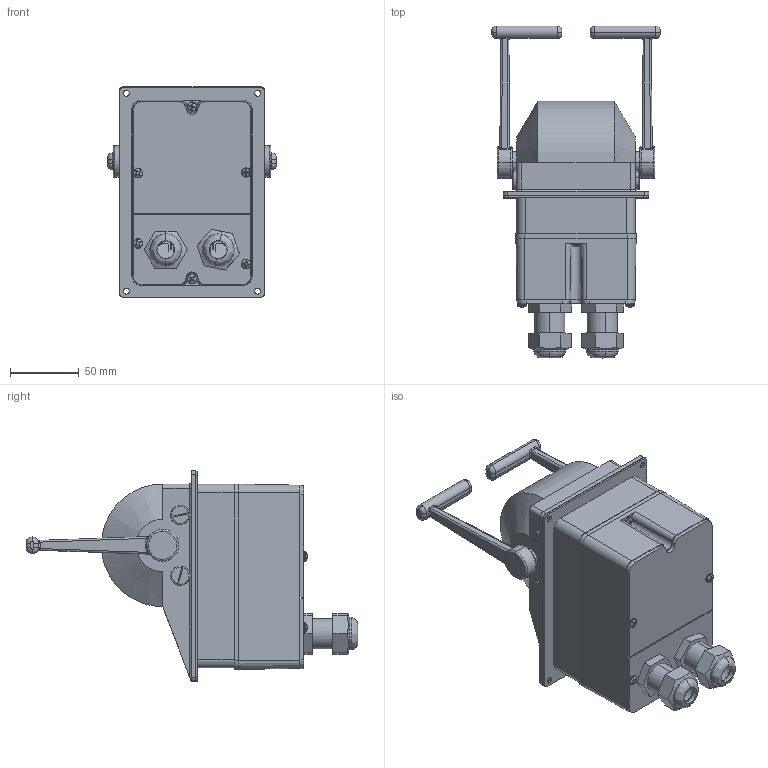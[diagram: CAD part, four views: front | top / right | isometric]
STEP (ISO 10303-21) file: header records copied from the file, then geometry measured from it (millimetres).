
FILE_DESCRIPTION (( 'STEP AP203' ), '1' );
FILE_NAME ('6505S-TC.STEP', '2020-06-18T20:04:18', ( '' ), ( '' ), 'SwSTEP 2.0', 'SolidWorks 2019', '' );
FILE_SCHEMA (( 'CONFIG_CONTROL_DESIGN' ));
Length unit declared in the file: inch
Products named in the file (2): 6505S-TC
Bounding box: 121.95 x 240.56 x 152.91 mm (x, y, z)
Surface area: 125424.9 mm2 (no closed solid volume)
Topology: 0 solids, 63 shells, 581 faces, 2852 edges, 2307 vertices
Faces by surface type: plane 284, cylinder 142, bspline 57, torus 50, cone 40, sphere 8
Entity records: 37282 total; most frequent: CARTESIAN_POINT 16199, ORIENTED_EDGE 3976, DIRECTION 3825, EDGE_CURVE 2852, VERTEX_POINT 2307, AXIS2_PLACEMENT_3D 1281, VECTOR 1263, LINE 1263
